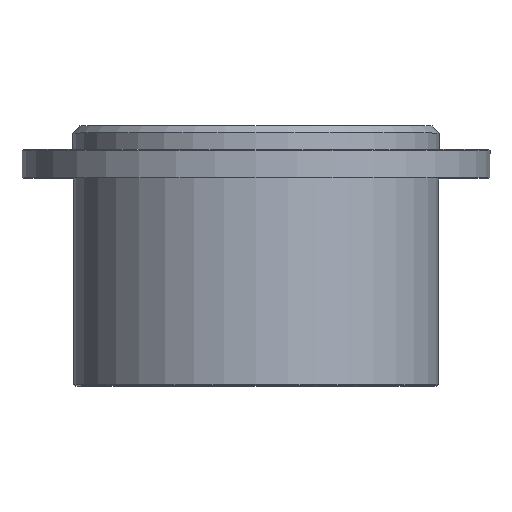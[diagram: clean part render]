
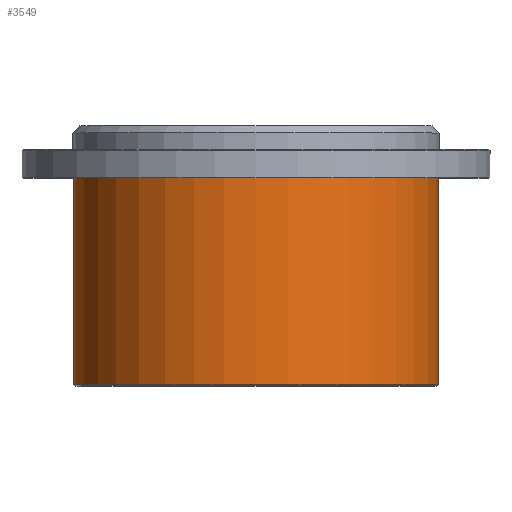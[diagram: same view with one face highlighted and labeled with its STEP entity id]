
A CAD part, top view. The second image highlights one B-rep face of the part: STEP entity #3549.
In plain terms, the highlighted cylindrical face has radius 77.25 mm (diameter 154.5 mm), a full revolution.
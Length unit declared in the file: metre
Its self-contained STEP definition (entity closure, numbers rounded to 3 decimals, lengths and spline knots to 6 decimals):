
#3549=ADVANCED_FACE('',(#6252,#6253),#6254,.T.);
#6252=FACE_OUTER_BOUND('',#12290,.T.);
#6253=FACE_OUTER_BOUND('',#12291,.T.);
#6254=CYLINDRICAL_SURFACE('',#12292,0.07725);
#12290=EDGE_LOOP('',(#15789));
#12291=EDGE_LOOP('',(#15790));
#12292=AXIS2_PLACEMENT_3D('',#15791,#15792,#15793);
#15789=ORIENTED_EDGE('',*,*,#16161,.F.);
#15790=ORIENTED_EDGE('',*,*,#16204,.T.);
#15791=CARTESIAN_POINT('',(-0.028473,0.099588,0.0));
#15792=DIRECTION('',(-0.0,-1.0,-0.0));
#15793=DIRECTION('',(0.0,0.0,1.0));
#16161=EDGE_CURVE('',#16416,#16416,#16417,.T.);
#16204=EDGE_CURVE('',#16471,#16471,#16472,.T.);
#16416=VERTEX_POINT('',#16780);
#16417=CIRCLE('',#16781,0.07725);
#16471=VERTEX_POINT('',#16895);
#16472=CIRCLE('',#16896,0.07725);
#16780=CARTESIAN_POINT('',(-0.028473,0.065218,0.07725));
#16781=AXIS2_PLACEMENT_3D('',#17107,#17108,#17109);
#16895=CARTESIAN_POINT('',(-0.028473,-0.022282,0.07725));
#16896=AXIS2_PLACEMENT_3D('',#17151,#17152,#17153);
#17107=CARTESIAN_POINT('',(-0.028473,0.065218,0.0));
#17108=DIRECTION('',(0.0,1.0,0.0));
#17109=DIRECTION('',(0.0,0.0,1.0));
#17151=CARTESIAN_POINT('',(-0.028473,-0.022282,0.0));
#17152=DIRECTION('',(0.0,1.0,0.0));
#17153=DIRECTION('',(0.0,0.0,1.0));
